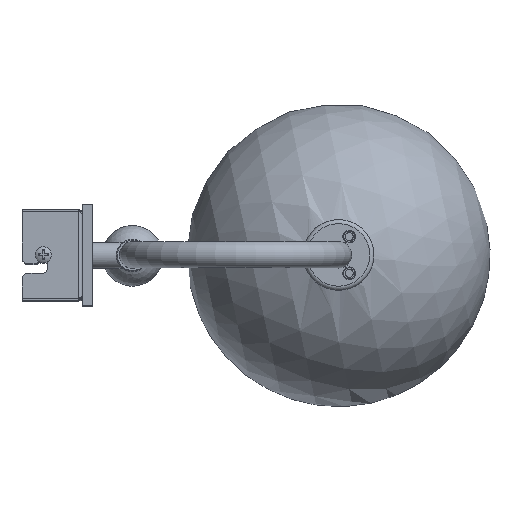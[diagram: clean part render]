
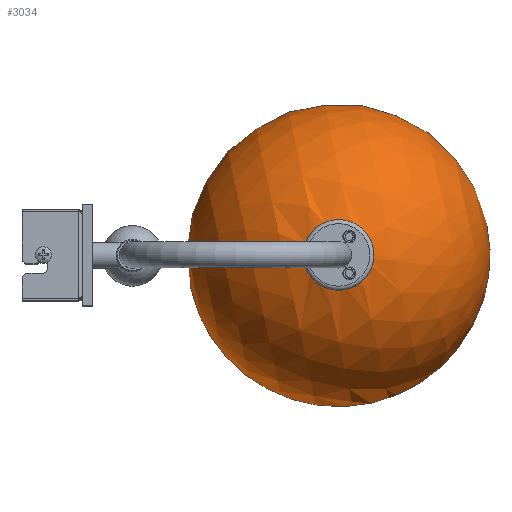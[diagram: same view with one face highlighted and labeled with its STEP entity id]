
A CAD part, top view. The second image highlights one B-rep face of the part: STEP entity #3034.
In plain terms, the highlighted spherical face has radius 75 mm.
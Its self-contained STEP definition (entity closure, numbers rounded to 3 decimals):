
#22=SPHERICAL_SURFACE('',#3305,75.);
#653=FACE_BOUND('',#966,.T.);
#770=FACE_OUTER_BOUND('',#965,.T.);
#965=EDGE_LOOP('',(#2436,#2437));
#966=EDGE_LOOP('',(#2438));
#1135=CIRCLE('',#3300,16.5);
#1139=CIRCLE('',#3306,75.);
#1386=VERTEX_POINT('',#5211);
#1390=VERTEX_POINT('',#5222);
#1391=VERTEX_POINT('',#5223);
#1759=EDGE_CURVE('',#1386,#1386,#1135,.T.);
#1764=EDGE_CURVE('',#1390,#1391,#1139,.T.);
#2436=ORIENTED_EDGE('',*,*,#1764,.T.);
#2437=ORIENTED_EDGE('',*,*,#1764,.F.);
#2438=ORIENTED_EDGE('',*,*,#1759,.T.);
#3034=ADVANCED_FACE('',(#770,#653),#22,.T.);
#3300=AXIS2_PLACEMENT_3D('',#5212,#3955,#3956);
#3305=AXIS2_PLACEMENT_3D('',#5221,#3966,#3967);
#3306=AXIS2_PLACEMENT_3D('',#5224,#3968,#3969);
#3955=DIRECTION('center_axis',(0.,0.,
-1.));
#3956=DIRECTION('ref_axis',(0.542,-0.84,0.));
#3966=DIRECTION('center_axis',(0.977,0.213,0.));
#3967=DIRECTION('ref_axis',(-0.213,0.977,0.));
#3968=DIRECTION('center_axis',(0.,0.,
-1.));
#3969=DIRECTION('ref_axis',(0.213,-0.977,0.));
#5211=CARTESIAN_POINT('',(147.714,13.862,271.811));
#5212=CARTESIAN_POINT('Origin',(156.664,0.,271.811));
#5221=CARTESIAN_POINT('Origin',(156.664,0.,198.648));
#5222=CARTESIAN_POINT('',(229.951,15.938,198.648));
#5223=CARTESIAN_POINT('',(83.377,-15.938,198.648));
#5224=CARTESIAN_POINT('Origin',(156.664,0.,198.648));
